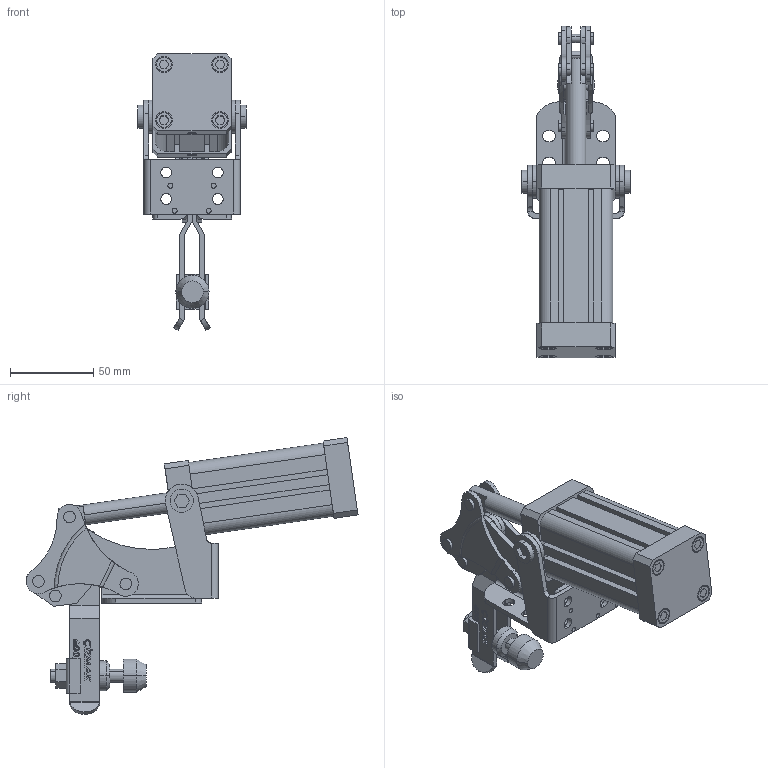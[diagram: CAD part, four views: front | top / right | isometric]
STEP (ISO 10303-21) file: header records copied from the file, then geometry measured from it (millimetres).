
FILE_DESCRIPTION (( 'STEP AP214' ), '1' );
FILE_NAME ('600-3 Montaj.STEP', '2017-06-08T07:39:27', ( '' ), ( '' ), 'SwSTEP 2.0', 'SolidWorks 2015', '' );
FILE_SCHEMA (( 'AUTOMOTIVE_DESIGN' ));
Length unit declared in the file: millimetre
Products named in the file (20): 600-3-6 somun1; 600-3 Montaj; 600-3-7 u papuc1; 600-3-5 ozel somun1; 600-3-4 lastik; 600-3-2 civata1; 600-3-15 Part5; 600-3-3 civata2-11; 600-3-14 montaj percini; 600-3-13 montaj percini2; 600-3-1; 600-3-17 Part7; 600-3-12 mil; 600-3-10 tirnak; 600-3-11  kol; 600-3-9 lama; 600-3-20 Part3; 600-3-8 baski ayagi; 600-3-18 piston ayagi; 600-3-19 piston ayagi
Assembly tree (27 placements, depth 2):
  600-3 Montaj
    600-3-19 piston ayagi
    600-3-18 piston ayagi
    600-3-8 baski ayagi
    600-3-20 Part3
    600-3-9 lama  x2
    600-3-11  kol  x2
    600-3-10 tirnak  x2
    600-3-12 mil
    600-3-17 Part7  x2
    600-3-1
    600-3-13 montaj percini2  x2
    600-3-14 montaj percini  x3
    600-3-3 civata2-11
    600-3-15 Part5  x2
    600-3-2 civata1
    600-3-4 lastik
    600-3-5 ozel somun1
    600-3-7 u papuc1
    600-3-6 somun1
Bounding box: 65 x 199.81 x 166.63 mm (x, y, z)
Volume: 293027.2 mm3; surface area: 97844.6 mm2
Topology: 27 solids, 27 shells, 908 faces, 2301 edges, 1528 vertices
Faces by surface type: plane 491, cylinder 281, bspline 126, cone 10
Entity records: 25419 total; most frequent: CARTESIAN_POINT 7392, ORIENTED_EDGE 3362, DIRECTION 3260, EDGE_CURVE 1681, VERTEX_POINT 1116, AXIS2_PLACEMENT_3D 1088, LINE 1084, VECTOR 1084
